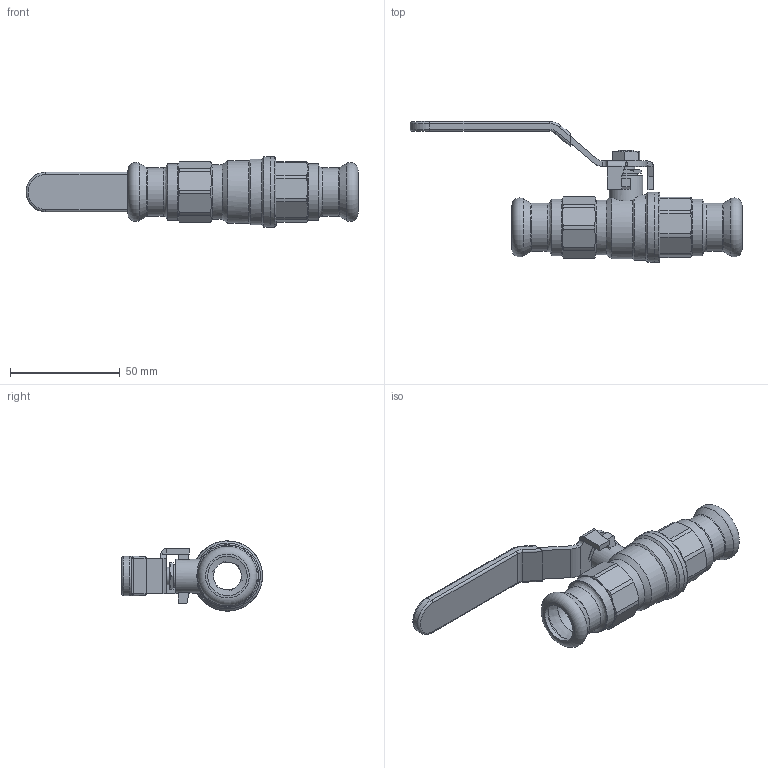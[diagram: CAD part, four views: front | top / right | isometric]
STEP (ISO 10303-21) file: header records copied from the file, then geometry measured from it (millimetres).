
FILE_DESCRIPTION((''),'2;1');
FILE_NAME('P:\Fastrack\53972_CRANE 3D\Press Fit\D171APF\D171A-PF\D171A-PF-18MM\D171A-PF-18MM.stp','2012-01-18T09:23:03',('dcole'),(''),'Autodesk Inventor 2008','Autodesk Inventor 2008','');
FILE_SCHEMA(('AUTOMOTIVE_DESIGN { 1 0 10303 214 1 1 1 1 }'));
Length unit declared in the file: millimetre
Products named in the file (1): D171A-PF-18MM
Bounding box: 151.4 x 64.29 x 32 mm (x, y, z)
Volume: 43927 mm3; surface area: 29657.8 mm2
Topology: 1 solids, 11 shells, 454 faces, 1459 edges, 1111 vertices
Faces by surface type: plane 221, cylinder 108, cone 79, torus 24, bspline 19, sphere 3
Full cylindrical faces by diameter (mm): 2 x2, 8 x1, 8.1 x2, 8.3 x1, 9 x1, 9.5 x1, 10.5 x1, 10.6 x1, 10.75 x1, 13.5 x1, 14.8 x1, 15 x4, 15.5 x1, 18 x4, 18.1 x2, 18.631 x2, 20.2 x2, 21 x4, 22 x2, 22.1 x2, 25 x1, 25.5 x1, 26 x2, 27 x1, 27.2 x1, 30 x1, 32 x2
Entity records: 26269 total; most frequent: CARTESIAN_POINT 13916, ORIENTED_EDGE 2574, DIRECTION 2121, EDGE_CURVE 1287, VERTEX_POINT 1053, AXIS2_PLACEMENT_3D 782, EDGE_LOOP 690, VECTOR 557
